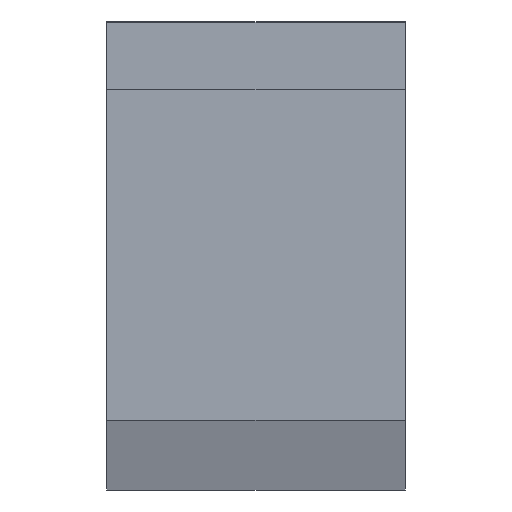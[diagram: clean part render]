
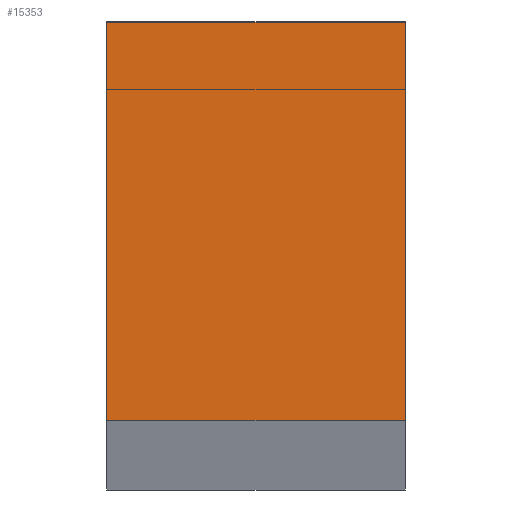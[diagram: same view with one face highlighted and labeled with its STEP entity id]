
A CAD part, top view. The second image highlights one B-rep face of the part: STEP entity #15353.
In plain terms, the highlighted planar face has unit normal (0, 0, 1).
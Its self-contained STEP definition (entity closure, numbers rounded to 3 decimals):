
#15353=ADVANCED_FACE('',(#27909),#27911,.T.);
#27909=FACE_BOUND('',#27910,.T.);
#27910=EDGE_LOOP('',(#38713,#38714,#38715,#38716));
#27911=PLANE('',#27912);
#27912=AXIS2_PLACEMENT_3D('',#27913,#27914,#27915);
#27913=CARTESIAN_POINT('',(0.,0.,2000.));
#27914=DIRECTION('',(0.,0.,1.));
#27915=DIRECTION('',(1.,0.,0.));
#38713=ORIENTED_EDGE('',*,*,#41820,.T.);
#38714=ORIENTED_EDGE('',*,*,#40547,.T.);
#38715=ORIENTED_EDGE('',*,*,#41852,.T.);
#38716=ORIENTED_EDGE('',*,*,#43992,.T.);
#40547=EDGE_CURVE('',#47432,#47430,#47433,.T.);
#41820=EDGE_CURVE('',#49554,#47432,#49555,.T.);
#41852=EDGE_CURVE('',#47430,#49614,#49616,.T.);
#43992=EDGE_CURVE('',#49614,#49554,#52622,.T.);
#47430=VERTEX_POINT('',#59494);
#47432=VERTEX_POINT('',#59498);
#47433=LINE('',#59499,#59500);
#49554=VERTEX_POINT('',#64166);
#49555=LINE('',#64167,#64168);
#49614=VERTEX_POINT('',#64308);
#49616=LINE('',#64312,#64313);
#52622=LINE('',#71618,#71619);
#59494=CARTESIAN_POINT('',(0.,20.,2000.));
#59498=CARTESIAN_POINT('',(15.,20.,2000.));
#59499=CARTESIAN_POINT('',(15.,20.,2000.));
#59500=VECTOR('',#59501,1.);
#59501=DIRECTION('',(-1.,0.,0.));
#64166=CARTESIAN_POINT('',(15.,0.,2000.));
#64167=CARTESIAN_POINT('',(15.,0.,2000.));
#64168=VECTOR('',#64169,1.);
#64169=DIRECTION('',(0.,1.,0.));
#64308=CARTESIAN_POINT('',(0.,0.,2000.));
#64312=CARTESIAN_POINT('',(0.,20.,2000.));
#64313=VECTOR('',#64314,1.);
#64314=DIRECTION('',(0.,-1.,0.));
#71618=CARTESIAN_POINT('',(0.,0.,2000.));
#71619=VECTOR('',#71620,1.);
#71620=DIRECTION('',(1.,0.,0.));
